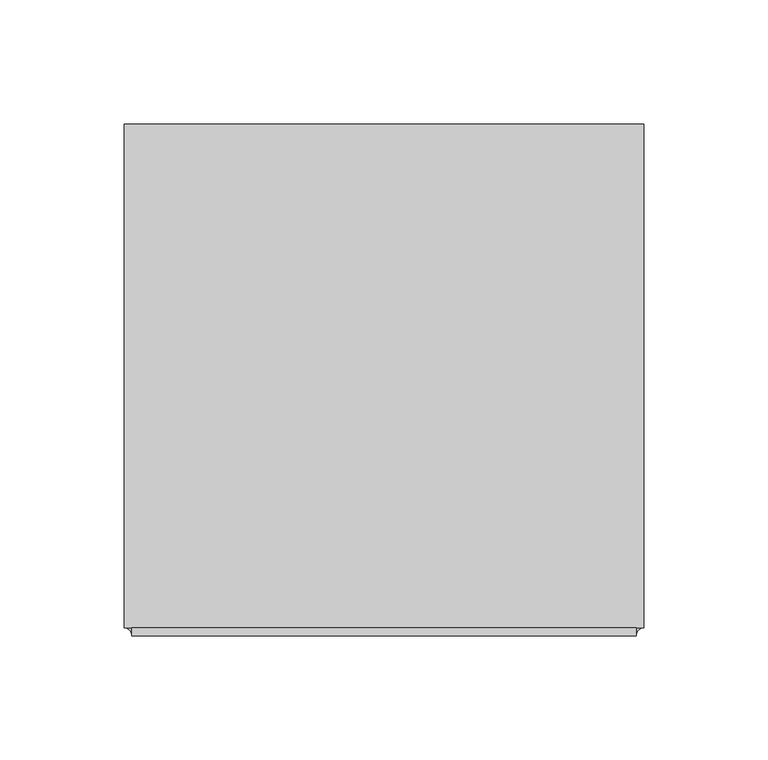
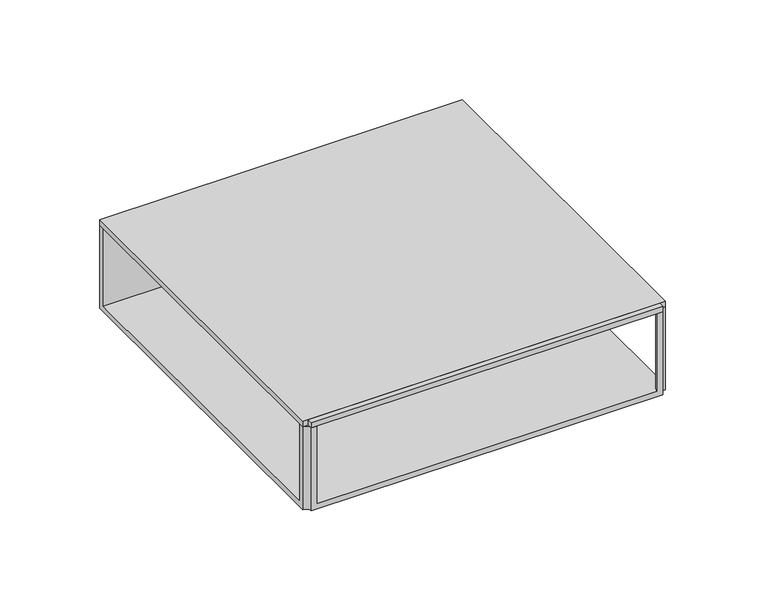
"""IFC4 building model written with IfcOpenShell, lengths in millimetres: cable carrier fitting geometry, Tee-Cablofil-Wire_Mesh_Cable_Tray : EZ T 90 KIT."""

from ifc_helpers import new_model, si_unit, frame, origin, place, context, project, spatial, polyline, circle_curve, outline, extrude, source, transform, mapped, element, save
from ifc_brep_helpers import plane_surface, cylinder_surface, revolved_surface, advanced_brep


def cable_carrier_fitting_e0ec710b(model_context):
    return source(origin(), model_context, "Body", "SolidModel", [
        extrude(outline(polyline([(101.6, -101.6), (101.6, -104.775), (-101.6, -104.775), (-101.6, -101.6), (101.6, -101.6)])), frame((0.0, 0.0, 25.4), z_axis=(0.0, 0.0, 1.0), x_axis=(1.0, 0.0, 0.0)), (0.0, 0.0, 1.0), 3.175),
        extrude(outline(polyline([(104.775, 101.6), (104.775, -101.6), (-104.775, -101.6), (-104.775, 101.6), (104.775, 101.6)])), frame((0.0, 0.0, 25.4), z_axis=(0.0, 0.0, 1.0), x_axis=(1.0, 0.0, 0.0)), (0.0, 0.0, 1.0), 3.175),
        advanced_brep(
        [(-101.6, -104.775, 25.4), (-98.425, -104.775, 25.4), (-104.775, -98.425, 25.4), (-104.775, -101.6, 25.4), (101.6, -104.775, 25.4), (104.775, -101.6, 25.4), (104.775, -98.425, 25.4), (98.425, -104.775, 25.4), (104.775, 101.6, 25.4), (-104.775, 101.6, 25.4), (-104.775, 98.425, 25.4), (104.775, 98.425, 25.4), (-101.6, -104.775, -25.4), (-104.775, -101.6, -25.4), (-104.775, 101.6, -25.4), (104.775, 101.6, -25.4), (104.775, -101.6, -25.4), (101.6, -104.775, -25.4), (98.425, -104.775, -22.225), (-98.425, -104.775, -22.225), (-104.775, -98.425, -22.225), (-104.775, 98.425, -22.225), (104.775, 98.425, -22.225), (104.775, -98.425, -22.225)],
        [
            (0, 1),
            (1, 2, circle_curve(frame((-104.775, -104.775, 25.4), z_axis=(0.0, 0.0, 1.0), x_axis=(1.0, 0.0, 0.0)), 6.35)),
            (2, 3),
            (3, 0, circle_curve(frame((-104.775, -104.775, 25.4), z_axis=(0.0, 0.0, -1.0), x_axis=(1.0, 0.0, 0.0)), 3.175)),
            (4, 5, circle_curve(frame((104.775, -104.775, 25.4), z_axis=(0.0, 0.0, -1.0), x_axis=(1.0, 0.0, 0.0)), 3.175)),
            (5, 6),
            (6, 7, circle_curve(frame((104.775, -104.775, 25.4), z_axis=(0.0, 0.0, 1.0), x_axis=(1.0, 0.0, 0.0)), 6.35)),
            (7, 4),
            (8, 9),
            (9, 10),
            (10, 11),
            (11, 8),
            (12, 13, circle_curve(frame((-104.775, -104.775, -25.4), z_axis=(0.0, 0.0, 1.0), x_axis=(1.0, 0.0, 0.0)), 3.175)),
            (13, 14),
            (14, 15),
            (15, 16),
            (16, 17, circle_curve(frame((104.775, -104.775, -25.4), z_axis=(0.0, 0.0, 1.0), x_axis=(1.0, 0.0, 0.0)), 3.175)),
            (17, 12),
            (0, 12),
            (17, 4),
            (7, 18),
            (18, 19),
            (19, 1),
            (19, 20, circle_curve(frame((-104.775, -104.775, -22.225), z_axis=(0.0, 0.0, 1.0), x_axis=(1.0, 0.0, 0.0)), 6.35)),
            (20, 2),
            (20, 21),
            (21, 10),
            (9, 14),
            (13, 3),
            (16, 5),
            (15, 8),
            (11, 22),
            (22, 23),
            (23, 6),
            (23, 18, circle_curve(frame((104.775, -104.775, -22.225), z_axis=(0.0, 0.0, 1.0), x_axis=(1.0, 0.0, 0.0)), 6.35)),
            (21, 22),
        ],
        [
            plane_surface(frame((-101.6, -104.775, 25.4), z_axis=(0.0, 0.0, 1.0), x_axis=(1.0, 0.0, 0.0))),
            plane_surface(frame((-101.6, -104.775, -25.4), z_axis=(0.0, 0.0, -1.0), x_axis=(-1.0, 0.0, 0.0))),
            plane_surface(frame((-101.6, -104.775, 25.4), z_axis=(0.0, -1.0, 0.0), x_axis=(0.0, 0.0, -1.0))),
            cylinder_surface(frame((-104.775, -104.775, -25.4), z_axis=(0.0, 0.0, 1.0), x_axis=(1.0, 0.0, 0.0)), 6.35),
            plane_surface(frame((-104.775, -98.425, 25.4), z_axis=(-1.0, 0.0, 0.0), x_axis=(0.0, 0.0, -1.0))),
            revolved_surface(polyline([(-101.60000000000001, -104.775, -25.4), (-101.60000000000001, -104.775, 25.4)]), (-104.775, -104.775, -25.4), (0.0, 0.0, -1.0)),
            revolved_surface(polyline([(107.95, -104.775, -25.4), (107.95, -104.775, 25.4)]), (104.775, -104.775, 0.0), (0.0, 0.0, -1.0)),
            plane_surface(frame((104.775, -101.6, 25.4), z_axis=(1.0, 0.0, 0.0), x_axis=(0.0, 0.0, -1.0))),
            cylinder_surface(frame((104.775, -104.775, 0.0), z_axis=(0.0, 0.0, 1.0), x_axis=(1.0, 0.0, 0.0)), 6.35),
            plane_surface(frame((104.775, 101.6, 25.4), z_axis=(0.0, 1.0, 0.0), x_axis=(0.0, 0.0, -1.0))),
            plane_surface(frame((-104.775, 98.425, 25.4), z_axis=(0.0, -1.0, 0.0), x_axis=(0.0, 0.0, -1.0))),
            plane_surface(frame((-101.6, -104.775, -22.225), z_axis=(0.0, 0.0, 1.0), x_axis=(1.0, 0.0, 0.0))),
        ],
        [
            (0, [[1, 2, 3, 4]]),
            (0, [[5, 6, 7, 8]]),
            (0, [[9, 10, 11, 12]]),
            (1, [[13, 14, 15, 16, 17, 18]]),
            (2, [[-1, 19, -18, 20, -8, 21, 22, 23]]),
            (3, [[-2, -23, 24, 25]]),
            (4, [[-3, -25, 26, 27, -10, 28, -14, 29]]),
            (5, [[-19, -4, -29, -13]]),
            (6, [[30, -5, -20, -17]]),
            (7, [[-6, -30, -16, 31, -12, 32, 33, 34]]),
            (8, [[-7, -34, 35, -21]]),
            (9, [[-28, -9, -31, -15]]),
            (10, [[-11, -27, 36, -32]]),
            (11, [[-22, -35, -33, -36, -26, -24]]),
        ],
    ),
    ])


if __name__ == "__main__":
    model = new_model("IFC4")
    model_context = context("Model", 3, world=origin())
    ifc_project = project(units=[si_unit("LENGTHUNIT", "METRE", prefix="MILLI")], contexts=[model_context])
    site = spatial("IfcSite", under=ifc_project)
    building = spatial("IfcBuilding", under=site)
    placement = place(None, origin())
    cable_carrier_fitting_shape = cable_carrier_fitting_e0ec710b(model_context)
    element("IfcCableCarrierFitting", 1, ObjectType="Tee-Cablofil-Wire_Mesh_Cable_Tray : EZ T 90 KIT", at=placement, inside=building, context=model_context, shape_type="MappedRepresentation", body=[
        mapped(cable_carrier_fitting_shape, transform((0.0, 0.0, 0.0), x_axis=(1.0, 0.0, 0.0), y_axis=(0.0, 1.0, 0.0), z_axis=(0.0, 0.0, 1.0))),
    ])
    save(model, "model.ifc")
